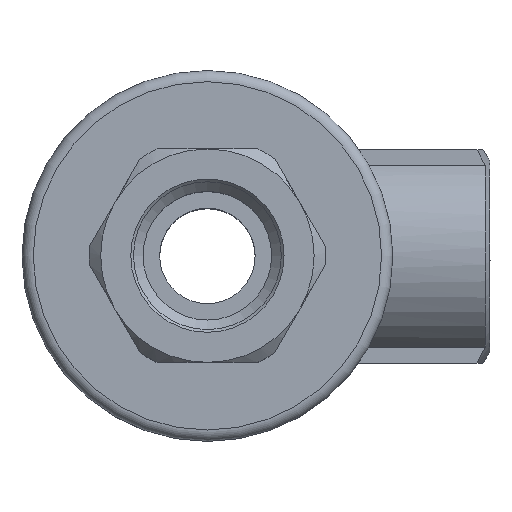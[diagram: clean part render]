
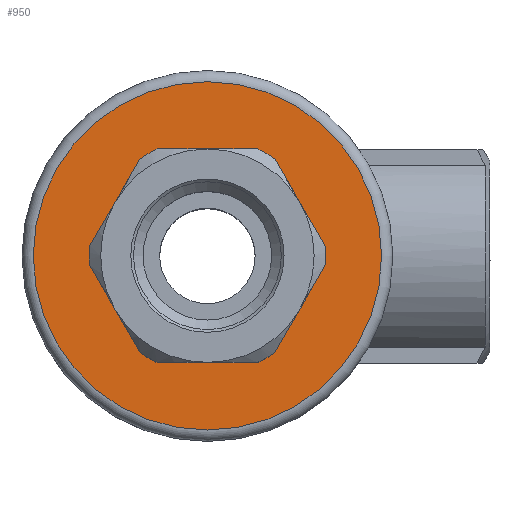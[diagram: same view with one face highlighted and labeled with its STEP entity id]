
A CAD part, top view. The second image highlights one B-rep face of the part: STEP entity #950.
In plain terms, the highlighted planar face has unit normal (0, 0, 1).
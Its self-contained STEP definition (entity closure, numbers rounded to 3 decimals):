
#950=ADVANCED_FACE('', (#960,#970), #980, .T.);
#5450=AXIS2_PLACEMENT_3D('Ax2Pl3d', #5460, #5470, #5480);
#5610=AXIS2_PLACEMENT_3D('Ax2Pl3d', #5620, #5630, #5640);
#5730=AXIS2_PLACEMENT_3D('Ax2Pl3d', #5740, #5750, #5760);
#5810=AXIS2_PLACEMENT_3D('Ax2Pl3d', #5820, #5830, #5840);
#5850=AXIS2_PLACEMENT_3D('Ax2Pl3d', #5860, #5870, #5880);
#5890=AXIS2_PLACEMENT_3D('Ax2Pl3d', #5900, #5910, #5920);
#5930=AXIS2_PLACEMENT_3D('Ax2Pl3d', #5940, #5950, #5960);
#5970=AXIS2_PLACEMENT_3D('Ax2Pl3d', #5980, #5990, #6000);
#24990=CARTESIAN_POINT('', (79.317,66.138,109.104));
#25000=CARTESIAN_POINT('', (70.373,66.138,109.104));
#25010=CARTESIAN_POINT('', (70.373,66.138,109.104));
#25060=CARTESIAN_POINT('', (64.381,55.761,109.104));
#25070=CARTESIAN_POINT('', (68.854,48.015,109.104));
#25080=CARTESIAN_POINT('', (68.854,48.015,109.104));
#5460=CARTESIAN_POINT('HicPkt', (74.845,56.638,
109.104));
#25100=CARTESIAN_POINT('', (70.373,47.138,109.104));
#25120=CARTESIAN_POINT('', (79.317,47.138,109.104));
#25130=CARTESIAN_POINT('', (79.317,47.138,109.104));
#25150=CARTESIAN_POINT('', (85.308,55.761,109.104));
#25160=CARTESIAN_POINT('', (80.836,48.015,109.104));
#25170=CARTESIAN_POINT('', (85.308,55.761,109.104))
;
#5620=CARTESIAN_POINT('HicPkt', (74.845,56.638,
109.104));
#25200=CARTESIAN_POINT('', (80.836,65.261,109.104));
#25210=CARTESIAN_POINT('', (85.308,57.515,109.104));
#25220=CARTESIAN_POINT('', (80.836,65.261,109.104))
;
#5740=CARTESIAN_POINT('HicPkt', (74.845,56.638,
109.104));
#5820=CARTESIAN_POINT('HicPkt', (74.845,56.638,
109.104));
#5860=CARTESIAN_POINT('HicPkt', (74.845,41.138,
109.104));
#5900=CARTESIAN_POINT('HicPkt', (74.845,56.638,
109.104));
#25250=CARTESIAN_POINT('', (74.845,41.138,109.104));
#5940=CARTESIAN_POINT('HicPkt', (74.845,56.638,
109.104));
#25260=CARTESIAN_POINT('', (64.381,57.515,109.104));
#25270=CARTESIAN_POINT('', (64.381,57.515,109.104))
;
#25280=CARTESIAN_POINT('', (68.854,65.261,109.104));
#5980=CARTESIAN_POINT('HicPkt', (74.845,56.638,
109.104));
#26790=CIRCLE('Circle', #5450, 10.5);
#26800=CIRCLE('Circle', #5610, 10.5);
#26810=CIRCLE('Circle', #5730, 10.5);
#26820=CIRCLE('Circle', #5810, 10.5);
#26830=CIRCLE('Circle', #5890, 15.5);
#26840=CIRCLE('Circle', #5930, 10.5);
#26850=CIRCLE('Circle', #5970, 10.5);
#33310=DIRECTION('', (-1.,0.,0.));
#33340=DIRECTION('', (0.5,-0.866,0.));
#5470=DIRECTION('Axis', (0.,0.,1.));
#5480=DIRECTION('RefDirection', (1.,0.,-0.));
#33370=DIRECTION('', (1.,0.,0.));
#33390=DIRECTION('', (0.5,0.866,0.));
#5630=DIRECTION('Axis', (0.,0.,1.));
#5640=DIRECTION('RefDirection', (1.,0.,-0.));
#33420=DIRECTION('', (-0.5,0.866,0.));
#5750=DIRECTION('Axis', (0.,0.,1.));
#5760=DIRECTION('RefDirection', (1.,0.,-0.));
#5830=DIRECTION('Axis', (0.,0.,1.));
#5840=DIRECTION('RefDirection', (1.,0.,-0.));
#5870=DIRECTION('Axis', (0.,0.,1.));
#5880=DIRECTION('RefDirection', (1.,0.,-0.));
#5910=DIRECTION('Axis', (0.,0.,1.));
#5920=DIRECTION('RefDirection', (1.,0.,-0.));
#5950=DIRECTION('Axis', (0.,0.,1.));
#5960=DIRECTION('RefDirection', (1.,0.,-0.));
#33450=DIRECTION('', (-0.5,-0.866,0.));
#5990=DIRECTION('Axis', (0.,0.,1.));
#6000=DIRECTION('RefDirection', (1.,0.,-0.));
#34300=EDGE_CURVE('', #34280, #34310, #34320, .T.);
#34430=EDGE_CURVE('', #34410, #34440, #34450, .T.);
#34480=EDGE_CURVE('', #34440, #34490, #26790, .T.);
#34520=EDGE_CURVE('', #34490, #34530, #34540, .T.);
#34570=EDGE_CURVE('', #34580, #34590, #34600, .T.);
#34650=EDGE_CURVE('', #34530, #34580, #26800, .T.);
#34660=EDGE_CURVE('', #34670, #34680, #34690, .T.);
#34740=EDGE_CURVE('', #34680, #34280, #26810, .T.);
#34750=EDGE_CURVE('', #34590, #34670, #26820, .T.);
#34760=EDGE_CURVE('', #34770, #34770, #26830, .T.);
#34780=EDGE_CURVE('', #34790, #34410, #26840, .T.);
#34800=EDGE_CURVE('', #34810, #34790, #34820, .T.);
#34830=EDGE_CURVE('', #34310, #34810, #26850, .T.);
#38610=EDGE_LOOP('Edge_loop', (#38620));
#38630=EDGE_LOOP('Edge_loop', (#38640,#38650,#38660,#38670,#38680,
#38690,#38700,#38710,#38720,#38730,#38740,#38750));
#970=FACE_BOUND('', #38630, .T.);
#960=FACE_OUTER_BOUND('Face_outer_bound', #38610, .T.);
#34320=LINE('Line', #25000, #43620);
#34450=LINE('Line', #25070, #43650);
#34540=LINE('Line', #25120, #43680);
#34600=LINE('Line', #25150, #43700);
#34690=LINE('Line', #25200, #43730);
#34820=LINE('Line', #25270, #43760);
#38620=ORIENTED_EDGE('', *, *, #34760, .T.);
#38640=ORIENTED_EDGE('', *, *, #34650, .F.);
#38650=ORIENTED_EDGE('', *, *, #34520, .F.);
#38660=ORIENTED_EDGE('', *, *, #34480, .F.);
#38670=ORIENTED_EDGE('', *, *, #34430, .F.);
#38680=ORIENTED_EDGE('', *, *, #34780, .F.);
#38690=ORIENTED_EDGE('', *, *, #34800, .F.);
#38700=ORIENTED_EDGE('', *, *, #34830, .F.);
#38710=ORIENTED_EDGE('', *, *, #34300, .F.);
#38720=ORIENTED_EDGE('', *, *, #34740, .F.);
#38730=ORIENTED_EDGE('', *, *, #34660, .F.);
#38740=ORIENTED_EDGE('', *, *, #34750, .F.);
#38750=ORIENTED_EDGE('', *, *, #34570, .F.);
#980=PLANE('Plane', #5850);
#43620=VECTOR('', #33310, 8.944);
#43650=VECTOR('', #33340, 8.944);
#43680=VECTOR('', #33370, 8.944);
#43700=VECTOR('', #33390, 8.944);
#43730=VECTOR('', #33420, 8.944);
#43760=VECTOR('', #33450, 8.944);
#34280=VERTEX_POINT('', #24990);
#34310=VERTEX_POINT('', #25010);
#34410=VERTEX_POINT('', #25060);
#34440=VERTEX_POINT('', #25080);
#34490=VERTEX_POINT('', #25100);
#34530=VERTEX_POINT('', #25130);
#34580=VERTEX_POINT('', #25160);
#34590=VERTEX_POINT('', #25170);
#34670=VERTEX_POINT('', #25210);
#34680=VERTEX_POINT('', #25220);
#34770=VERTEX_POINT('', #25250);
#34790=VERTEX_POINT('', #25260);
#34810=VERTEX_POINT('', #25280);
